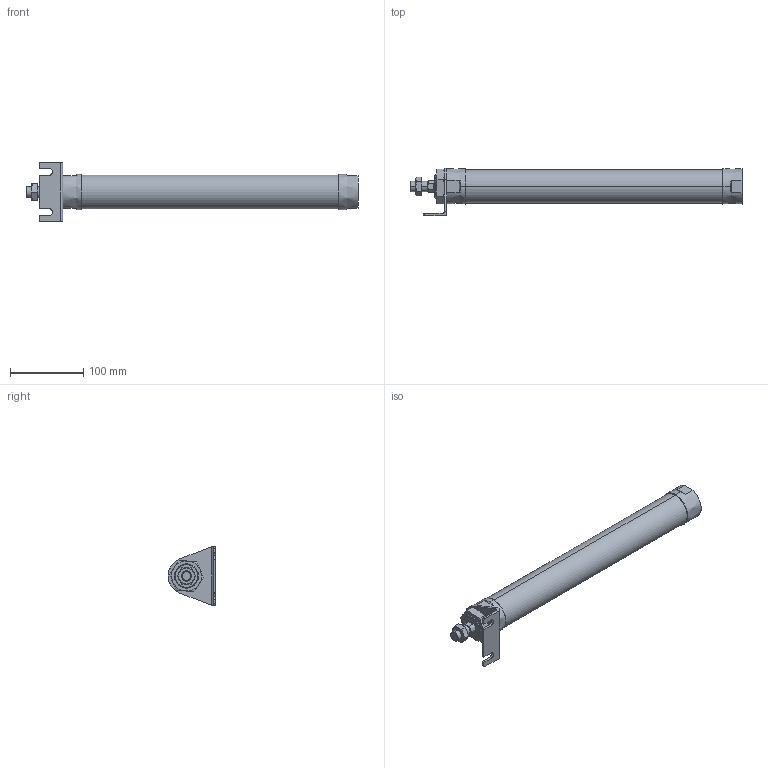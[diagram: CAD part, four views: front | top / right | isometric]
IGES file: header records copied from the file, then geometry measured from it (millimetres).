
Start section: SolidWorks IGES file using analytic representation for surfaces
Global section: file name: C:\Users\Toshiba\Desktop\JGND2-40-300-L.IGS; native system: SolidWorks 2014; preprocessor: SolidWorks 2014; author: Toshiba; date: 160804.111624; units: millimetre
Bounding box: 453 x 65 x 80 mm (x, y, z)
Surface area: 83284 mm2 (no closed solid volume)
Topology: 0 solids, 0 shells, 116 faces, 2112 edges, 2108 vertices
Faces by surface type: bspline 71, revolution 45
